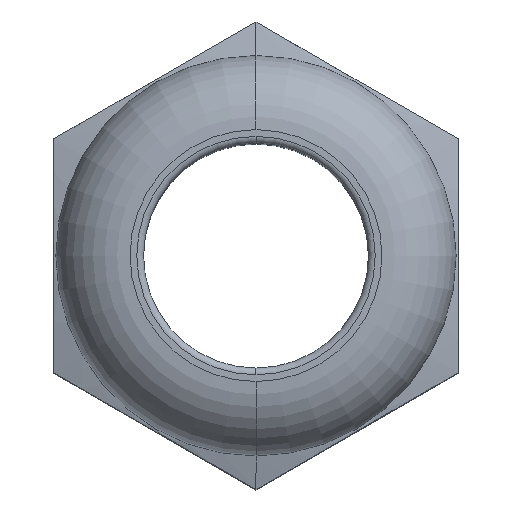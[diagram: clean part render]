
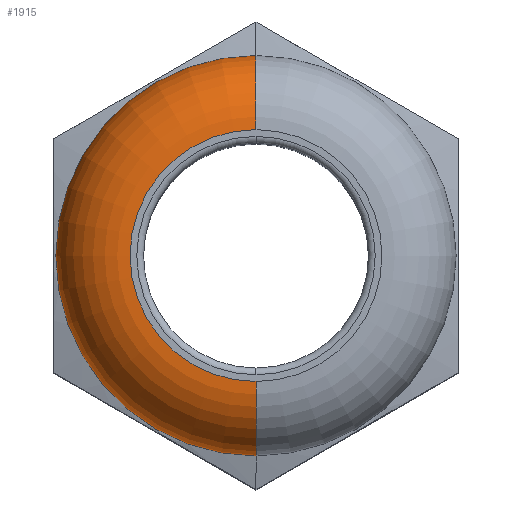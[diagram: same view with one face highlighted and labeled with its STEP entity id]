
A CAD part, top view. The second image highlights one B-rep face of the part: STEP entity #1915.
In plain terms, the highlighted toroidal (fillet/blend) face has major radius 5.6 mm and minor radius 3.3 mm.
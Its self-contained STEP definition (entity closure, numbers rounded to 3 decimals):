
#749 = CARTESIAN_POINT ( 'NONE',  ( 0., 0., 24. ) ) ;
#759 = DIRECTION ( 'NONE',  ( 0., 1., 0. ) ) ;
#760 = DIRECTION ( 'NONE',  ( 0., 0., -1. ) ) ;
#761 = AXIS2_PLACEMENT_3D ( 'NONE', #749, #760, #759 ) ;
#762 = CIRCLE ( 'NONE', #761, 5.6 ) ;
#987 = CARTESIAN_POINT ( 'NONE',  ( 0., 8.9, 20.7 ) ) ;
#1142 = DIRECTION ( 'NONE',  ( -1., 0., 0. ) ) ;
#1143 = CARTESIAN_POINT ( 'NONE',  ( 0., 5.6, 20.7 ) ) ;
#1144 = AXIS2_PLACEMENT_3D ( 'NONE', #1143, #1142, #1186 ) ;
#1146 = CARTESIAN_POINT ( 'NONE',  ( 0., -8.9, 20.7 ) ) ;
#1152 = CARTESIAN_POINT ( 'NONE',  ( 0., 5.6, 24. ) ) ;
#1181 = CARTESIAN_POINT ( 'NONE',  ( 0., -5.6, 24. ) ) ;
#1186 = DIRECTION ( 'NONE',  ( 0., 0., 1. ) ) ;
#1187 = CIRCLE ( 'NONE', #1144, 3.3 ) ;
#1208 = DIRECTION ( 'NONE',  ( 0., 1., 0. ) ) ;
#1209 = DIRECTION ( 'NONE',  ( 1., 0., 0. ) ) ;
#1210 = CARTESIAN_POINT ( 'NONE',  ( 0., -5.6, 20.7 ) ) ;
#1211 = AXIS2_PLACEMENT_3D ( 'NONE', #1210, #1209, #1208 ) ;
#1228 = CIRCLE ( 'NONE', #1211, 3.3 ) ;
#1305 = VERTEX_POINT ( 'NONE', #987 ) ;
#1319 = VERTEX_POINT ( 'NONE', #1152 ) ;
#1321 = VERTEX_POINT ( 'NONE', #1146 ) ;
#1324 = EDGE_CURVE ( 'NONE', #1319, #1305, #1187, .T. ) ;
#1504 = VERTEX_POINT ( 'NONE', #1181 ) ;
#1541 = CARTESIAN_POINT ( 'NONE',  ( 0., 0., 20.7 ) ) ;
#1569 = DIRECTION ( 'NONE',  ( 0., 1., 0. ) ) ;
#1570 = DIRECTION ( 'NONE',  ( 0., 0., -1. ) ) ;
#1571 = AXIS2_PLACEMENT_3D ( 'NONE', #1541, #1570, #1569 ) ;
#1572 = CIRCLE ( 'NONE', #1571, 8.9 ) ;
#1576 = EDGE_CURVE ( 'NONE', #1504, #1321, #1228, .T. ) ;
#1678 = DIRECTION ( 'NONE',  ( 0., 1., 0. ) ) ;
#1679 = DIRECTION ( 'NONE',  ( 0., 0., -1. ) ) ;
#1680 = CARTESIAN_POINT ( 'NONE',  ( 0., 0., 20.7 ) ) ;
#1762 = AXIS2_PLACEMENT_3D ( 'NONE', #1680, #1679, #1678 ) ;
#1763 = TOROIDAL_SURFACE ( 'NONE', #1762, 5.6, 3.3 ) ;
#1764 = FACE_OUTER_BOUND ( 'NONE', #1983, .T. ) ;
#1873 = ORIENTED_EDGE ( 'NONE', *, *, #1876, .F. ) ;
#1874 = ORIENTED_EDGE ( 'NONE', *, *, #1982, .T. ) ;
#1875 = ORIENTED_EDGE ( 'NONE', *, *, #1324, .T. ) ;
#1876 = EDGE_CURVE ( 'NONE', #1321, #1305, #1572, .T. ) ;
#1915 = ADVANCED_FACE ( 'NONE', ( #1764 ), #1763, .T. ) ;
#1948 = ORIENTED_EDGE ( 'NONE', *, *, #1576, .F. ) ;
#1982 = EDGE_CURVE ( 'NONE', #1504, #1319, #762, .T. ) ;
#1983 = EDGE_LOOP ( 'NONE', ( #1948, #1874, #1875, #1873 ) ) ;
